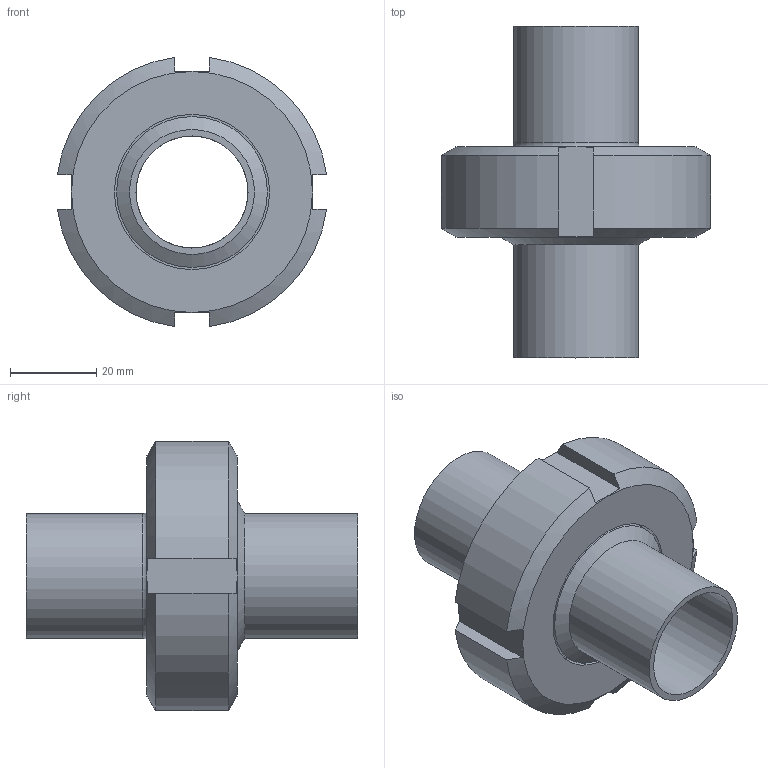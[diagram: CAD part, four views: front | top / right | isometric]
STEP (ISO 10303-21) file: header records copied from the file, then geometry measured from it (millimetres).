
FILE_DESCRIPTION(/* description */ ('Aseptik_Rohrverbindung_DIN 11864-1-A_29x1,50_L77'),/* implementation_level */ '2;1');
FILE_NAME(/* name */ 'L:\Normteile\N0024 - Rohrverbindungen\N0024_002 - DIN11864\N0024_002_001 - geschraubt\N0024_002_001\Step Marketing\DIN11864-1-A_29x1,50_L77.stp',/* time_stamp */ '2021-08-31T10:18:17+02:00',/* author */ ('Csasse'),/* organization */ ('Dockweiler AG'),/* preprocessor_version */ 'ST-DEVELOPER v18',/* originating_system */ 'Autodesk Inventor 2020',/* authorisation */ '');
FILE_SCHEMA (('AUTOMOTIVE_DESIGN { 1 0 10303 214 3 1 1 }'));
Length unit declared in the file: millimetre
Products named in the file (5): N0024_002_001_32; N0003_007_001_04; N0003_007_002_04; N0005_005_002_001_03; N0009_009_14
Assembly tree (4 placements, depth 2):
  N0024_002_001_32
    N0003_007_001_04
    N0003_007_002_04
    N0005_005_002_001_03
    N0009_009_14
Bounding box: 62.49 x 77 x 62.49 mm (x, y, z)
Volume: 60165.8 mm3; surface area: 32695.3 mm2
Topology: 4 solids, 4 shells, 60 faces, 176 edges, 128 vertices
Faces by surface type: plane 24, cylinder 14, torus 12, cone 10
Full cylindrical faces by diameter (mm): 26 x2, 29 x2, 35 x1, 36 x1, 42.9 x1, 43 x1, 47.767 x1, 52.423 x1
Entity records: 2344 total; most frequent: CARTESIAN_POINT 425, DIRECTION 402, ORIENTED_EDGE 352, AXIS2_PLACEMENT_3D 183, EDGE_CURVE 176, VERTEX_POINT 128, CIRCLE 114, EDGE_LOOP 72
